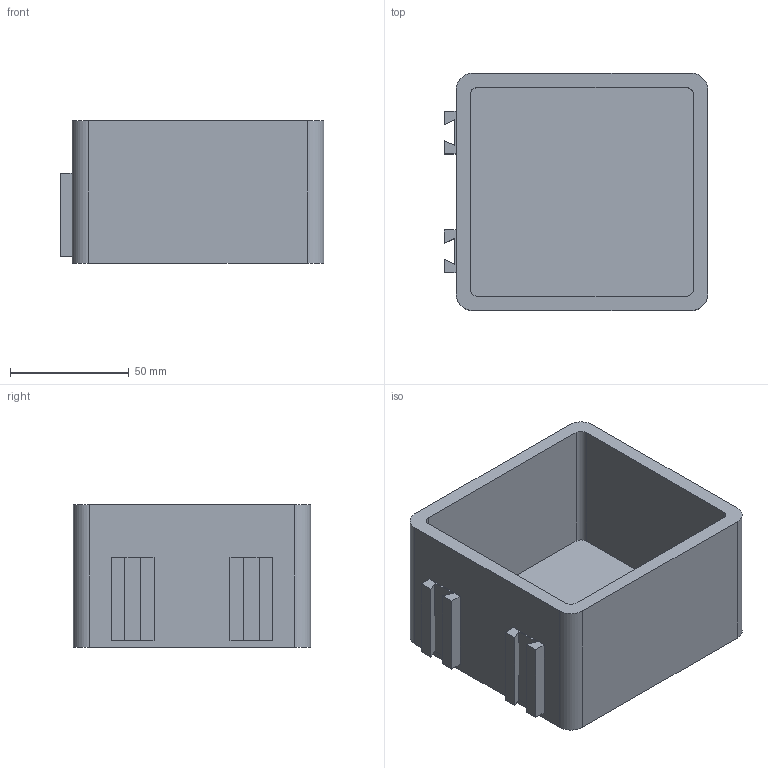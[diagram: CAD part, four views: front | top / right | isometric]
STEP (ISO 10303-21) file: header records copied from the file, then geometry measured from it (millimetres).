
FILE_DESCRIPTION(('Open CASCADE Model'),'2;1');
FILE_NAME('Open CASCADE Shape Model','2026-09-13T14:17:58',('Author'),( 'Open CASCADE'),'Open CASCADE STEP processor 7.9','Open CASCADE 7.9' ,'Unknown');
FILE_SCHEMA(('AUTOMOTIVE_DESIGN { 1 0 10303 214 1 1 1 1 }'));
Length unit declared in the file: millimetre
Products named in the file (1): Open CASCADE STEP translator 7.9 4
Bounding box: 111 x 100 x 60 mm (x, y, z)
Volume: 174266.5 mm3; surface area: 67072.2 mm2
Topology: 1 solids, 1 shells, 37 faces, 96 edges, 64 vertices
Faces by surface type: plane 29, cylinder 8
Entity records: 2354 total; most frequent: CARTESIAN_POINT 474, DIRECTION 326, LINE 208, VECTOR 208, ORIENTED_EDGE 192, PCURVE 192, DEFINITIONAL_REPRESENTATION 192, EDGE_CURVE 96
